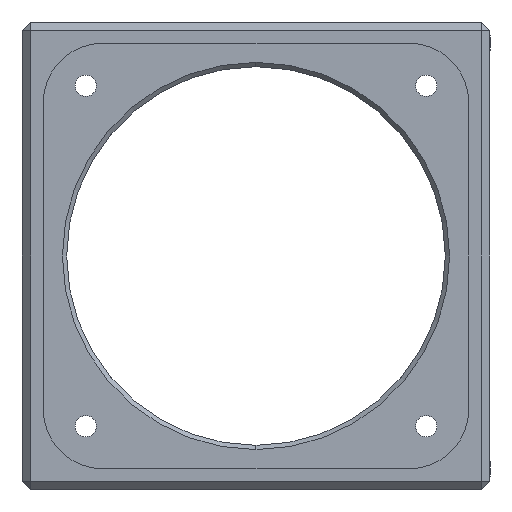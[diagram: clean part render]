
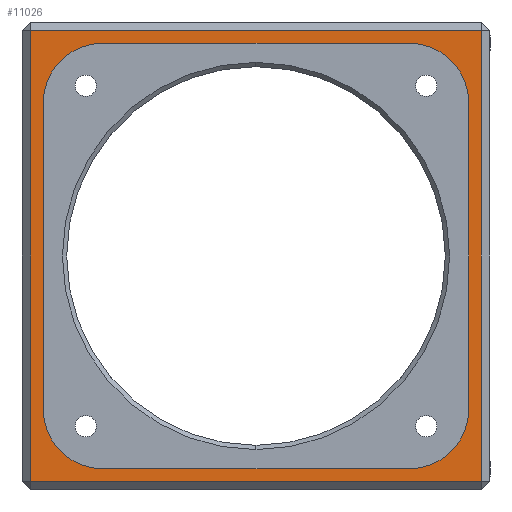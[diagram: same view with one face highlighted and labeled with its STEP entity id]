
A CAD part, front view. The second image highlights one B-rep face of the part: STEP entity #11026.
In plain terms, the highlighted planar face has unit normal (0, -1, 0).
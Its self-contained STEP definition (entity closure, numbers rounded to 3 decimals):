
#182 = CARTESIAN_POINT ( 'NONE',  ( -33.383, -14.591, 25. ) ) ;
#723 = LINE ( 'NONE', #3269, #10594 ) ;
#888 = EDGE_CURVE ( 'NONE', #11929, #6285, #7451, .T. ) ;
#939 = CARTESIAN_POINT ( 'NONE',  ( -58.383, -14.591, -26.5 ) ) ;
#990 = EDGE_CURVE ( 'NONE', #6285, #3225, #5492, .T. ) ;
#1003 = CARTESIAN_POINT ( 'NONE',  ( -83.383, -14.591, 18. ) ) ;
#1015 = DIRECTION ( 'NONE',  ( 0., 0., 1. ) ) ;
#1320 = CIRCLE ( 'NONE', #4569, 7. ) ;
#1370 = ORIENTED_EDGE ( 'NONE', *, *, #7522, .T. ) ;
#1431 = EDGE_CURVE ( 'NONE', #12740, #1748, #4275, .T. ) ;
#1576 = ORIENTED_EDGE ( 'NONE', *, *, #6810, .T. ) ;
#1748 = VERTEX_POINT ( 'NONE', #7163 ) ;
#1819 = AXIS2_PLACEMENT_3D ( 'NONE', #3707, #5125, #6195 ) ;
#2144 = ORIENTED_EDGE ( 'NONE', *, *, #11310, .T. ) ;
#2485 = EDGE_CURVE ( 'NONE', #5523, #14479, #3854, .T. ) ;
#2508 = AXIS2_PLACEMENT_3D ( 'NONE', #2705, #4136, #12193 ) ;
#2544 = VECTOR ( 'NONE', #11237, 1000. ) ;
#2705 = CARTESIAN_POINT ( 'NONE',  ( -76.383, -14.591, 18. ) ) ;
#2798 = VECTOR ( 'NONE', #3386, 1000. ) ;
#2804 = CARTESIAN_POINT ( 'NONE',  ( -33.383, -14.591, 18. ) ) ;
#3215 = EDGE_CURVE ( 'NONE', #14479, #8014, #11632, .T. ) ;
#3225 = VERTEX_POINT ( 'NONE', #7043 ) ;
#3269 = CARTESIAN_POINT ( 'NONE',  ( -83.383, -14.591, 25. ) ) ;
#3363 = ORIENTED_EDGE ( 'NONE', *, *, #10152, .T. ) ;
#3386 = DIRECTION ( 'NONE',  ( -1., 0., 0. ) ) ;
#3499 = CARTESIAN_POINT ( 'NONE',  ( -40.383, -14.591, -25. ) ) ;
#3515 = LINE ( 'NONE', #182, #11552 ) ;
#3707 = CARTESIAN_POINT ( 'NONE',  ( -58.383, -14.591, 0. ) ) ;
#3854 = LINE ( 'NONE', #7410, #2544 ) ;
#4054 = VERTEX_POINT ( 'NONE', #11386 ) ;
#4136 = DIRECTION ( 'NONE',  ( 0., 1., 0. ) ) ;
#4189 = CARTESIAN_POINT ( 'NONE',  ( -33.383, -14.591, 25. ) ) ;
#4262 = DIRECTION ( 'NONE',  ( 0., 0., -1. ) ) ;
#4275 = CIRCLE ( 'NONE', #2508, 7. ) ;
#4569 = AXIS2_PLACEMENT_3D ( 'NONE', #6434, #5280, #12585 ) ;
#4576 = VERTEX_POINT ( 'NONE', #3499 ) ;
#4615 = CARTESIAN_POINT ( 'NONE',  ( -31.883, -14.591, 26.5 ) ) ;
#4667 = CARTESIAN_POINT ( 'NONE',  ( -40.383, -14.591, 25. ) ) ;
#4708 = CARTESIAN_POINT ( 'NONE',  ( -58.383, -14.591, 26.5 ) ) ;
#4795 = ORIENTED_EDGE ( 'NONE', *, *, #6361, .T. ) ;
#5111 = ORIENTED_EDGE ( 'NONE', *, *, #1431, .T. ) ;
#5125 = DIRECTION ( 'NONE',  ( 0., 1., 0. ) ) ;
#5280 = DIRECTION ( 'NONE',  ( 0., 1., 0. ) ) ;
#5427 = CARTESIAN_POINT ( 'NONE',  ( -33.383, -14.591, -25. ) ) ;
#5492 = LINE ( 'NONE', #4189, #10704 ) ;
#5497 = DIRECTION ( 'NONE',  ( -1., 0., 0. ) ) ;
#5523 = VERTEX_POINT ( 'NONE', #6215 ) ;
#5579 = LINE ( 'NONE', #5427, #13237 ) ;
#5678 = DIRECTION ( 'NONE',  ( 1., 0., 0. ) ) ;
#5842 = CARTESIAN_POINT ( 'NONE',  ( -83.383, -14.591, -18. ) ) ;
#5858 = DIRECTION ( 'NONE',  ( 0., 1., 0. ) ) ;
#5956 = EDGE_CURVE ( 'NONE', #8014, #4054, #10923, .T. ) ;
#6195 = DIRECTION ( 'NONE',  ( 0., 0., 1. ) ) ;
#6204 = EDGE_LOOP ( 'NONE', ( #2144, #14830, #4795, #5111, #1576, #10100, #12049, #3363 ) ) ;
#6215 = CARTESIAN_POINT ( 'NONE',  ( -31.883, -14.591, -26.5 ) ) ;
#6285 = VERTEX_POINT ( 'NONE', #2804 ) ;
#6361 = EDGE_CURVE ( 'NONE', #6422, #12740, #723, .T. ) ;
#6422 = VERTEX_POINT ( 'NONE', #5842 ) ;
#6434 = CARTESIAN_POINT ( 'NONE',  ( -76.383, -14.591, -18. ) ) ;
#6735 = AXIS2_PLACEMENT_3D ( 'NONE', #8383, #9552, #9781 ) ;
#6810 = EDGE_CURVE ( 'NONE', #1748, #11929, #3515, .T. ) ;
#7043 = CARTESIAN_POINT ( 'NONE',  ( -33.383, -14.591, -18. ) ) ;
#7163 = CARTESIAN_POINT ( 'NONE',  ( -76.383, -14.591, 25. ) ) ;
#7358 = PLANE ( 'NONE',  #1819 ) ;
#7365 = EDGE_LOOP ( 'NONE', ( #10137, #1370, #13786, #14209 ) ) ;
#7410 = CARTESIAN_POINT ( 'NONE',  ( -31.883, -14.591, 0. ) ) ;
#7451 = CIRCLE ( 'NONE', #6735, 7. ) ;
#7522 = EDGE_CURVE ( 'NONE', #4054, #5523, #14061, .T. ) ;
#8014 = VERTEX_POINT ( 'NONE', #9349 ) ;
#8383 = CARTESIAN_POINT ( 'NONE',  ( -40.383, -14.591, 18. ) ) ;
#8587 = VECTOR ( 'NONE', #9689, 1000. ) ;
#9349 = CARTESIAN_POINT ( 'NONE',  ( -84.883, -14.591, 26.5 ) ) ;
#9552 = DIRECTION ( 'NONE',  ( 0., 1., 0. ) ) ;
#9556 = FACE_OUTER_BOUND ( 'NONE', #7365, .T. ) ;
#9689 = DIRECTION ( 'NONE',  ( 0., 0., -1. ) ) ;
#9781 = DIRECTION ( 'NONE',  ( 0., 0., 1. ) ) ;
#9999 = CIRCLE ( 'NONE', #11955, 7. ) ;
#10100 = ORIENTED_EDGE ( 'NONE', *, *, #888, .T. ) ;
#10137 = ORIENTED_EDGE ( 'NONE', *, *, #5956, .T. ) ;
#10152 = EDGE_CURVE ( 'NONE', #3225, #4576, #9999, .T. ) ;
#10594 = VECTOR ( 'NONE', #1015, 1000. ) ;
#10704 = VECTOR ( 'NONE', #4262, 1000. ) ;
#10923 = LINE ( 'NONE', #12091, #8587 ) ;
#11026 = ADVANCED_FACE ( 'NONE', ( #9556, #13185 ), #7358, .F. ) ;
#11237 = DIRECTION ( 'NONE',  ( 0., 0., 1. ) ) ;
#11310 = EDGE_CURVE ( 'NONE', #4576, #13826, #5579, .T. ) ;
#11323 = EDGE_CURVE ( 'NONE', #13826, #6422, #1320, .T. ) ;
#11386 = CARTESIAN_POINT ( 'NONE',  ( -84.883, -14.591, -26.5 ) ) ;
#11552 = VECTOR ( 'NONE', #13085, 1000. ) ;
#11632 = LINE ( 'NONE', #4708, #2798 ) ;
#11837 = CARTESIAN_POINT ( 'NONE',  ( -40.383, -14.591, -18. ) ) ;
#11929 = VERTEX_POINT ( 'NONE', #4667 ) ;
#11955 = AXIS2_PLACEMENT_3D ( 'NONE', #11837, #5858, #14152 ) ;
#12049 = ORIENTED_EDGE ( 'NONE', *, *, #990, .T. ) ;
#12091 = CARTESIAN_POINT ( 'NONE',  ( -84.883, -14.591, 0. ) ) ;
#12193 = DIRECTION ( 'NONE',  ( 0., 0., 1. ) ) ;
#12357 = CARTESIAN_POINT ( 'NONE',  ( -76.383, -14.591, -25. ) ) ;
#12585 = DIRECTION ( 'NONE',  ( 0., 0., 1. ) ) ;
#12600 = VECTOR ( 'NONE', #5678, 1000. ) ;
#12740 = VERTEX_POINT ( 'NONE', #1003 ) ;
#13085 = DIRECTION ( 'NONE',  ( 1., 0., 0. ) ) ;
#13185 = FACE_BOUND ( 'NONE', #6204, .T. ) ;
#13237 = VECTOR ( 'NONE', #5497, 1000. ) ;
#13786 = ORIENTED_EDGE ( 'NONE', *, *, #2485, .T. ) ;
#13826 = VERTEX_POINT ( 'NONE', #12357 ) ;
#14061 = LINE ( 'NONE', #939, #12600 ) ;
#14152 = DIRECTION ( 'NONE',  ( 0., 0., 1. ) ) ;
#14209 = ORIENTED_EDGE ( 'NONE', *, *, #3215, .T. ) ;
#14479 = VERTEX_POINT ( 'NONE', #4615 ) ;
#14830 = ORIENTED_EDGE ( 'NONE', *, *, #11323, .T. ) ;
